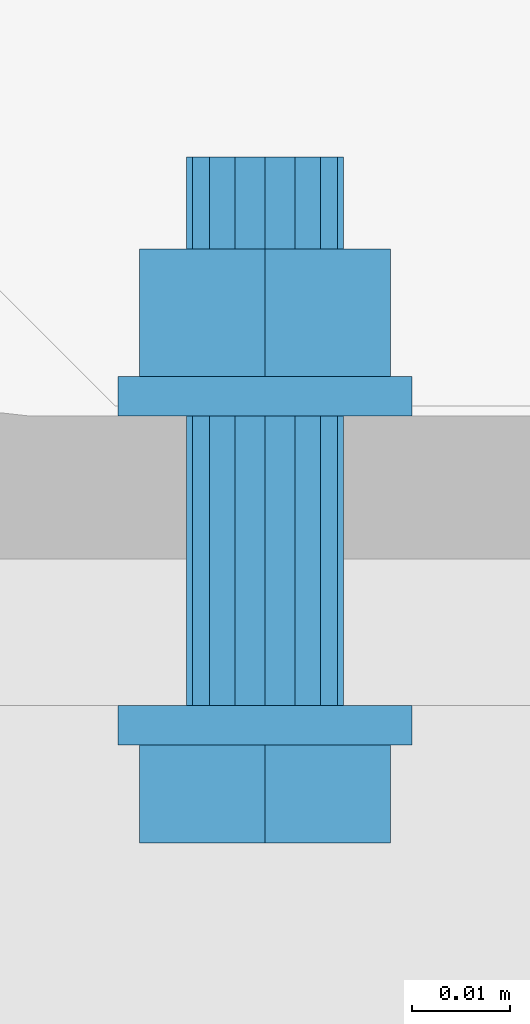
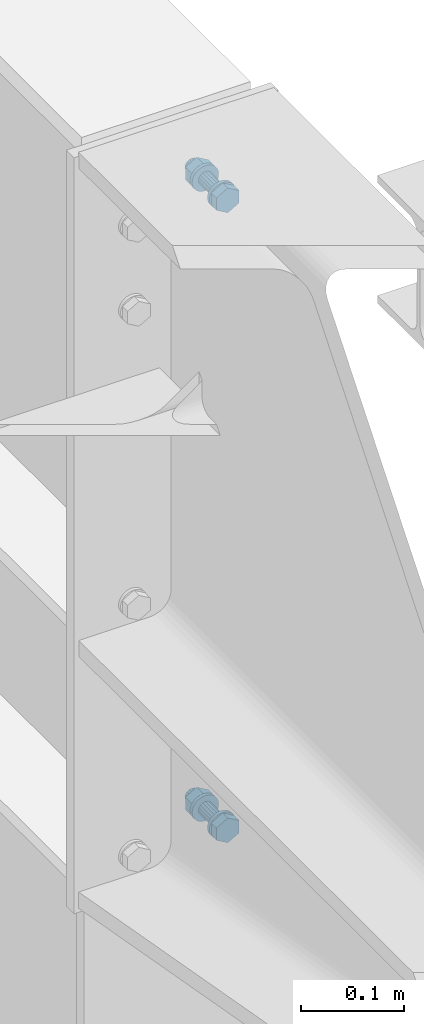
# Not in any storey, part 33 of 50: 2 mechanical fasteners.
"""IFC4 model written with IfcOpenShell, lengths in metres."""

import ifcopenshell
import ifcopenshell.guid

model = None  # the IFC model being written
_history = None  # IfcOwnerHistory: only IFC2X3 demands one
_inside = {}  # id of a spatial element -> (the spatial element, [elements in it])
_under = {}  # id of a project, library or spatial element -> (it, [spatial elements below it])
_declared = {}  # id of a project -> (the project, [libraries it declares])
_typed = {}  # id of a type object -> (the type object, [elements of that type])
_made_of = {}  # id of a material, layer set ... -> (it, [elements and type objects made of it])


def new_model(schema):
    """Start an empty IFC model of exactly this schema.

    Asked for "IFC4X3", IfcOpenShell would pick the latest addendum, in which some entities
    have other attributes; the version numbers below select the first issue.
    IFC2X3 requires an IfcOwnerHistory on every rooted entity: one is made here for all.
    """
    global model, _history
    if schema == "IFC4X3":
        model = ifcopenshell.file(schema_version=(4, 3, 0, 0))
    else:
        model = ifcopenshell.file(schema=schema)
    _inside.clear()
    _under.clear()
    _declared.clear()
    _typed.clear()
    _made_of.clear()
    _history = None
    if model.schema == "IFC2X3":
        org = make("IfcOrganization", Name="unknown")
        user = make(
            "IfcPersonAndOrganization",
            ThePerson=make("IfcPerson", FamilyName="unknown"),
            TheOrganization=org,
        )
        app = make(
            "IfcApplication",
            ApplicationDeveloper=org,
            Version="unknown",
            ApplicationFullName="unknown",
            ApplicationIdentifier="unknown",
        )
        _history = make(
            "IfcOwnerHistory",
            OwningUser=user,
            OwningApplication=app,
            ChangeAction="ADDED",
            CreationDate=0,
        )
    return model


def make(cls, **values):
    """One entity of the class cls with the attributes given. An attribute that is None is left unset."""
    return model.create_entity(
        cls, **{name: value for name, value in values.items() if value is not None}
    )


def entity(cls, *values):
    """Any entity or typed value of the class cls, its attributes in the order of the schema. None: left unset."""
    e = model.create_entity(cls)
    for i, value in enumerate(values):
        if value is not None:
            e[i] = value
    return e


def rooted(cls, **values):
    """An entity with a GlobalId (a new one), such as an element, a storey or a relation."""
    return make(cls, GlobalId=ifcopenshell.guid.new(), OwnerHistory=_history, **values)


def si_unit(unit_type, name, prefix=None):
    """IfcSIUnit, for example si_unit("LENGTHUNIT", "METRE", prefix="MILLI")."""
    return make("IfcSIUnit", UnitType=unit_type, Prefix=prefix, Name=name)


def converted_unit(unit_type, name, factor, base, dimensions=None, offset=None):
    """IfcConversionBasedUnit, such as the inch: factor (a typed value) times the base unit."""
    return make(
        "IfcConversionBasedUnit"
        if offset is None
        else "IfcConversionBasedUnitWithOffset",
        ConversionOffset=offset,
        Dimensions=None
        if dimensions is None
        else entity("IfcDimensionalExponents", *dimensions),
        UnitType=unit_type,
        Name=name,
        ConversionFactor=make(
            "IfcMeasureWithUnit", ValueComponent=factor, UnitComponent=base
        ),
    )


def derived_unit(unit_type, elements):
    """IfcDerivedUnit: a product of units, each with its exponent."""
    return make(
        "IfcDerivedUnit",
        Elements=[
            make("IfcDerivedUnitElement", Unit=unit, Exponent=power)
            for unit, power in elements
        ],
        UnitType=unit_type,
    )


def assignment(units):
    """IfcUnitAssignment: the units of a project."""
    return None if units is None else make("IfcUnitAssignment", Units=units)


def point(xyz):
    """IfcCartesianPoint."""
    return None if xyz is None else make("IfcCartesianPoint", Coordinates=xyz)


def direction(xyz):
    """IfcDirection."""
    return None if xyz is None else make("IfcDirection", DirectionRatios=xyz)


def frame(location, z_axis=None, x_axis=None):
    """IfcAxis2Placement3D, a coordinate frame: its origin and axes. An axis left out is left unset."""
    return make(
        "IfcAxis2Placement3D",
        Location=point(location),
        Axis=direction(z_axis),
        RefDirection=direction(x_axis),
    )


def origin():
    """The frame at (0, 0, 0) with its axes left unset."""
    return frame((0.0, 0.0, 0.0))


def origin_with_axes():
    """The frame at (0, 0, 0) with the z axis (0, 0, 1) and the x axis (1, 0, 0) written out."""
    return frame((0.0, 0.0, 0.0), z_axis=(0.0, 0.0, 1.0), x_axis=(1.0, 0.0, 0.0))


def place(relative_to, where):
    """IfcLocalPlacement: puts the frame where relative to a parent placement (None: the world)."""
    return make(
        "IfcLocalPlacement", PlacementRelTo=relative_to, RelativePlacement=where
    )


def context(
    kind, dimensions, precision=None, world=None, true_north=None, identifier=None
):
    """IfcGeometricRepresentationContext, for example the 3D "Model" context."""
    return make(
        "IfcGeometricRepresentationContext",
        ContextIdentifier=identifier,
        ContextType=kind,
        CoordinateSpaceDimension=dimensions,
        Precision=precision,
        WorldCoordinateSystem=world,
        TrueNorth=true_north,
    )


def project(units=None, contexts=None):
    """IfcProject with its units and contexts."""
    return rooted(
        "IfcProject",
        Name="project",
        RepresentationContexts=contexts,
        UnitsInContext=assignment(units),
    )


def spatial(cls, under=None, at=None, **own):
    """A site, building, storey or space (cls), placed at a placement, below another one or the project."""
    s = rooted(cls, ObjectPlacement=at, **own)
    if under is not None:
        _under.setdefault(under.id(), (under, []))[1].append(s)
    return s


def faces_of(points, faces, orient=None, outer=None):
    """IfcFace entities. A face is a list of loops; a loop is a list of indices into points, from 0.

    orient and outer hold one flag for each loop. By default every Orientation is true, the
    first loop of a face is its IfcFaceOuterBound and the others are IfcFaceBound.
    """
    made = []
    for i, loops in enumerate(faces):
        bounds = []
        for j, loop in enumerate(loops):
            is_outer = j == 0 if outer is None else outer[i][j]
            bounds.append(
                make(
                    "IfcFaceOuterBound" if is_outer else "IfcFaceBound",
                    Bound=make("IfcPolyLoop", Polygon=[points[k] for k in loop]),
                    Orientation=True if orient is None else orient[i][j],
                )
            )
        made.append(make("IfcFace", Bounds=bounds))
    return made


def faceted_brep(points, faces, orient=None, outer=None, voids=None):
    """IfcFacetedBrep: a solid bounded by flat faces; with voids (closed shells), ...WithVoids."""
    shared = [point(p) for p in points]
    hull = make("IfcClosedShell", CfsFaces=faces_of(shared, faces, orient, outer))
    if voids is None:
        return make("IfcFacetedBrep", Outer=hull)
    return make(
        "IfcFacetedBrepWithVoids",
        Outer=hull,
        Voids=[
            make(cls, CfsFaces=faces_of(shared, fs, o, b)) for cls, fs, o, b in voids
        ],
    )


def shape(context_of_items, identifier, shape_type, items):
    """IfcShapeRepresentation: the items that make up one representation, for example the "Body"."""
    return make(
        "IfcShapeRepresentation",
        ContextOfItems=context_of_items,
        RepresentationIdentifier=identifier,
        RepresentationType=shape_type,
        Items=items,
    )


def made_of(thing, what):
    """Note that an element or type object is made of a material, layer set ...; save() writes the relation."""
    if what is not None:
        _made_of.setdefault(what.id(), (what, []))[1].append(thing)
    return thing


def element(
    cls,
    number,
    at=None,
    inside=None,
    cuts=None,
    type_object=None,
    material=None,
    context=None,
    identifier="Body",
    shape_type=None,
    held_by="IfcProductDefinitionShape",
    body=None,
    shapes=None,
    **own,
):
    """One element of the class cls, such as IfcWall. Its Tag is "e" and its number.

    at: its placement. inside: the storey or other place that contains it. cuts: it is an
    opening in that element (IfcRelVoidsElement). A single representation is given by context,
    identifier, shape_type and body (its items); several are given by shapes. held_by: the class
    of the entity that holds the representations. save() writes the other relations.
    """
    e = rooted(cls, Tag="e%d" % number, ObjectPlacement=at, **own)
    if body is not None:
        shapes = [shape(context, identifier, shape_type, body)]
    if shapes is not None:
        e.Representation = make(held_by, Representations=shapes)
    if inside is not None:
        _inside.setdefault(inside.id(), (inside, []))[1].append(e)
    if cuts is not None:
        rooted(
            "IfcRelVoidsElement", RelatingBuildingElement=cuts, RelatedOpeningElement=e
        )
    if type_object is not None:
        _typed.setdefault(type_object.id(), (type_object, []))[1].append(e)
    return made_of(e, material)


def aggregate(whole, parts):
    """IfcRelAggregates: a whole, such as a stair, and the parts it consists of."""
    return rooted("IfcRelAggregates", RelatingObject=whole, RelatedObjects=parts)


def save(model, path):
    """Write the relations noted so far, then the file.

    IfcRelAggregates (storeys below a building ...), IfcRelContainedInSpatialStructure (elements
    in a storey), IfcRelDefinesByType, IfcRelAssociatesMaterial and IfcRelDeclares: one each for
    every whole, place, type object, material and project.
    """
    for whole, parts in _under.values():
        aggregate(whole, parts)
    for where, things in _inside.values():
        rooted(
            "IfcRelContainedInSpatialStructure",
            RelatedElements=things,
            RelatingStructure=where,
        )
    for kind, things in _typed.values():
        rooted("IfcRelDefinesByType", RelatedObjects=things, RelatingType=kind)
    for what, things in _made_of.values():
        rooted("IfcRelAssociatesMaterial", RelatedObjects=things, RelatingMaterial=what)
    for by, libraries in _declared.values():
        rooted("IfcRelDeclares", RelatingContext=by, RelatedDefinitions=libraries)
    model.write(path)


model = new_model("IFC4")

# Units and contexts
model_context = context("Model", 3, precision=1e-05, world=origin(), true_north=direction((6.123233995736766e-17, 1.0)))
ifc_project = project(units=[si_unit("LENGTHUNIT", "METRE"), si_unit("AREAUNIT", "SQUARE_METRE"), converted_unit("PLANEANGLEUNIT", "DEGREE", entity("IfcPlaneAngleMeasure", 0.017453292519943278), si_unit("PLANEANGLEUNIT", "RADIAN"), dimensions=[0, 0, 0, 0, 0, 0, 0]), si_unit("VOLUMEUNIT", "CUBIC_METRE"), derived_unit("THERMALTRANSMITTANCEUNIT", [(si_unit("MASSUNIT", "GRAM", prefix="KILO"), 1), (si_unit("THERMODYNAMICTEMPERATUREUNIT", "KELVIN"), -1), (si_unit("TIMEUNIT", "SECOND"), -3)])], contexts=[model_context])

# Site
site_placement = place(None, origin())
site = spatial("IfcSite", under=ifc_project, at=site_placement, Name="Default", CompositionType="ELEMENT")

# Mechanical fasteners
mechanical_fastener_1_placement = place(site_placement, origin_with_axes())
element("IfcMechanicalFastener", 1, at=mechanical_fastener_1_placement, inside=site, ObjectType="Bolt#1", NominalDiameter=0.016, NominalLength=0.06, context=model_context, shape_type="Brep", body=[
    faceted_brep([(8.225144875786, 17.685767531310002, 5.895), (8.225144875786, 17.68976753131, 5.895), (8.22543309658, 17.68976753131, 5.89207364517), (8.22543309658, 17.685767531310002, 5.89207364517), (8.226286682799, 17.68976753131, 5.889259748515), (8.226286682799, 17.685767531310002, 5.889259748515), (8.227672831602, 17.68976753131, 5.886666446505), (8.227672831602, 17.685767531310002, 5.886666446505), (8.229538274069, 17.68976753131, 5.884393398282), (8.229538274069, 17.685767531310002, 5.884393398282), (8.231811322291, 17.68976753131, 5.882527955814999), (8.231811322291, 17.685767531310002, 5.882527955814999), (8.234404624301, 17.68976753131, 5.881141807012), (8.234404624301, 17.685767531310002, 5.881141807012), (8.237218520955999, 17.68976753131, 5.880288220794), (8.237218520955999, 17.685767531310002, 5.880288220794), (8.240144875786, 17.68976753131, 5.88), (8.240144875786, 17.685767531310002, 5.88), (8.243071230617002, 17.68976753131, 5.880288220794), (8.243071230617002, 17.685767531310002, 5.880288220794), (8.245885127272, 17.68976753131, 5.881141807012), (8.245885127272, 17.685767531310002, 5.881141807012), (8.248478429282, 17.68976753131, 5.882527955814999), (8.248478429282, 17.685767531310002, 5.882527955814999), (8.250751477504, 17.68976753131, 5.884393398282), (8.250751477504, 17.685767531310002, 5.884393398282), (8.252616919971, 17.68976753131, 5.886666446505), (8.252616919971, 17.685767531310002, 5.886666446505), (8.254003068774, 17.68976753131, 5.889259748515), (8.254003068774, 17.685767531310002, 5.889259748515), (8.254856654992, 17.68976753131, 5.89207364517), (8.254856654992, 17.685767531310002, 5.89207364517), (8.255144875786, 17.68976753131, 5.895), (8.255144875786, 17.685767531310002, 5.895), (8.254856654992, 17.68976753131, 5.897926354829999), (8.254856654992, 17.685767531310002, 5.897926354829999), (8.254003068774, 17.68976753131, 5.900740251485), (8.254003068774, 17.685767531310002, 5.900740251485), (8.252616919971, 17.68976753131, 5.903333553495), (8.252616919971, 17.685767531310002, 5.903333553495), (8.250751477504, 17.68976753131, 5.9056066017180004), (8.250751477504, 17.685767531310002, 5.9056066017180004), (8.248478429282, 17.68976753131, 5.907472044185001), (8.248478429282, 17.685767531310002, 5.907472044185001), (8.245885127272, 17.68976753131, 5.908858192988), (8.245885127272, 17.685767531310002, 5.908858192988), (8.243071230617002, 17.68976753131, 5.909711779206), (8.243071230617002, 17.685767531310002, 5.909711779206), (8.240144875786, 17.68976753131, 5.91), (8.240144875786, 17.685767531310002, 5.91), (8.237218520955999, 17.68976753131, 5.909711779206), (8.237218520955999, 17.685767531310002, 5.909711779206), (8.234404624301, 17.68976753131, 5.908858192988), (8.234404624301, 17.685767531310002, 5.908858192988), (8.231811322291, 17.68976753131, 5.907472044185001), (8.231811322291, 17.685767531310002, 5.907472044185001), (8.229538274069, 17.68976753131, 5.9056066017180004), (8.229538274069, 17.685767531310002, 5.9056066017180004), (8.227672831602, 17.68976753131, 5.903333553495), (8.227672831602, 17.685767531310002, 5.903333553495), (8.226286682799, 17.68976753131, 5.900740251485), (8.226286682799, 17.685767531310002, 5.900740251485), (8.22543309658, 17.68976753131, 5.897926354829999), (8.22543309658, 17.685767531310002, 5.897926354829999)], [[[0, 1, 2, 3]], [[3, 2, 4, 5]], [[5, 4, 6, 7]], [[7, 6, 8, 9]], [[9, 8, 10, 11]], [[11, 10, 12, 13]], [[13, 12, 14, 15]], [[15, 14, 16, 17]], [[17, 16, 18, 19]], [[19, 18, 20, 21]], [[21, 20, 22, 23]], [[23, 22, 24, 25]], [[25, 24, 26, 27]], [[27, 26, 28, 29]], [[29, 28, 30, 31]], [[31, 30, 32, 33]], [[33, 32, 34, 35]], [[35, 34, 36, 37]], [[37, 36, 38, 39]], [[39, 38, 40, 41]], [[41, 40, 42, 43]], [[43, 42, 44, 45]], [[45, 44, 46, 47]], [[47, 46, 48, 49]], [[49, 48, 50, 51]], [[51, 50, 52, 53]], [[53, 52, 54, 55]], [[55, 54, 56, 57]], [[57, 56, 58, 59]], [[59, 58, 60, 61]], [[61, 60, 62, 63]], [[63, 62, 1, 0]], [[0, 3, 5, 7, 9, 11, 13, 15, 17, 19, 21, 23, 25, 27, 29, 31, 33, 35, 37, 39, 41, 43, 45, 47, 49, 51, 53, 55, 57, 59, 61, 63]], [[1, 62, 60, 58, 56, 54, 52, 50, 48, 46, 44, 42, 40, 38, 36, 34, 32, 30, 28, 26, 24, 22, 20, 18, 16, 14, 12, 10, 8, 6, 4, 2]]]),
    faceted_brep([(8.252944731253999, 17.685767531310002, 5.88761), (8.252944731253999, 17.67576753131, 5.88761), (8.240144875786, 17.67576753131, 5.8802200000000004), (8.240144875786, 17.685767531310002, 5.8802200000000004), (8.227345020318, 17.67576753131, 5.88761), (8.227345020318, 17.685767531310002, 5.88761), (8.227345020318, 17.67576753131, 5.9023900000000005), (8.227345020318, 17.685767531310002, 5.9023900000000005), (8.240144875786, 17.67576753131, 5.90978), (8.240144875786, 17.685767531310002, 5.90978), (8.252944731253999, 17.67576753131, 5.9023900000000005), (8.252944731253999, 17.685767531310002, 5.9023900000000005)], [[[0, 1, 2, 3]], [[3, 2, 4, 5]], [[5, 4, 6, 7]], [[7, 6, 8, 9]], [[9, 8, 10, 11]], [[11, 10, 1, 0]], [[4, 2, 1, 10, 8, 6]], [[0, 3, 5, 7, 9, 11]]]),
    faceted_brep([(8.232144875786, 17.68976753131, 5.895), (8.232144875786, 17.71936753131, 5.895), (8.232753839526, 17.71936753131, 5.891938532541), (8.232753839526, 17.68976753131, 5.891938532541), (8.234488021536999, 17.71936753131, 5.889343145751), (8.234488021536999, 17.68976753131, 5.889343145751), (8.237083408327, 17.71936753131, 5.88760896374), (8.237083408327, 17.68976753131, 5.88760896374), (8.240144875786, 17.71936753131, 5.887), (8.240144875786, 17.68976753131, 5.887), (8.243206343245, 17.71936753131, 5.88760896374), (8.243206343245, 17.68976753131, 5.88760896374), (8.245801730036, 17.71936753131, 5.889343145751), (8.245801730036, 17.68976753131, 5.889343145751), (8.247535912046, 17.71936753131, 5.891938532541), (8.247535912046, 17.68976753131, 5.891938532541), (8.248144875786, 17.71936753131, 5.895), (8.248144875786, 17.68976753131, 5.895), (8.247535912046, 17.71936753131, 5.898061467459), (8.247535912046, 17.68976753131, 5.898061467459), (8.245801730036, 17.71936753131, 5.900656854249), (8.245801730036, 17.68976753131, 5.900656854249), (8.243206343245, 17.71936753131, 5.90239103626), (8.243206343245, 17.68976753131, 5.90239103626), (8.240144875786, 17.71936753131, 5.903), (8.240144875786, 17.68976753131, 5.903), (8.237083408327, 17.71936753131, 5.90239103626), (8.237083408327, 17.68976753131, 5.90239103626), (8.234488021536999, 17.71936753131, 5.900656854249), (8.234488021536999, 17.68976753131, 5.900656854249), (8.232753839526, 17.71936753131, 5.898061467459), (8.232753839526, 17.68976753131, 5.898061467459)], [[[0, 1, 2, 3]], [[3, 2, 4, 5]], [[5, 4, 6, 7]], [[7, 6, 8, 9]], [[9, 8, 10, 11]], [[11, 10, 12, 13]], [[13, 12, 14, 15]], [[15, 14, 16, 17]], [[17, 16, 18, 19]], [[19, 18, 20, 21]], [[21, 20, 22, 23]], [[23, 22, 24, 25]], [[25, 24, 26, 27]], [[27, 26, 28, 29]], [[29, 28, 30, 31]], [[31, 30, 1, 0]], [[0, 3, 5, 7, 9, 11, 13, 15, 17, 19, 21, 23, 25, 27, 29, 31]], [[1, 30, 28, 26, 24, 22, 20, 18, 16, 14, 12, 10, 8, 6, 4, 2]]]),
    faceted_brep([(8.225144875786, 17.71936753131, 5.895), (8.225144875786, 17.72336753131, 5.895), (8.22543309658, 17.72336753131, 5.89207364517), (8.22543309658, 17.71936753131, 5.89207364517), (8.226286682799, 17.72336753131, 5.889259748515), (8.226286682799, 17.71936753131, 5.889259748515), (8.227672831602, 17.72336753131, 5.886666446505), (8.227672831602, 17.71936753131, 5.886666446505), (8.229538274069, 17.72336753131, 5.884393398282), (8.229538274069, 17.71936753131, 5.884393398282), (8.231811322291, 17.72336753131, 5.882527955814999), (8.231811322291, 17.71936753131, 5.882527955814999), (8.234404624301, 17.72336753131, 5.881141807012), (8.234404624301, 17.71936753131, 5.881141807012), (8.237218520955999, 17.72336753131, 5.880288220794), (8.237218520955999, 17.71936753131, 5.880288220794), (8.240144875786, 17.72336753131, 5.88), (8.240144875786, 17.71936753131, 5.88), (8.243071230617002, 17.72336753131, 5.880288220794), (8.243071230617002, 17.71936753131, 5.880288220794), (8.245885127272, 17.72336753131, 5.881141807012), (8.245885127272, 17.71936753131, 5.881141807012), (8.248478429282, 17.72336753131, 5.882527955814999), (8.248478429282, 17.71936753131, 5.882527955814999), (8.250751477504, 17.72336753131, 5.884393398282), (8.250751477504, 17.71936753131, 5.884393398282), (8.252616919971, 17.72336753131, 5.886666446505), (8.252616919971, 17.71936753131, 5.886666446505), (8.254003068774, 17.72336753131, 5.889259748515), (8.254003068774, 17.71936753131, 5.889259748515), (8.254856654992, 17.72336753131, 5.89207364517), (8.254856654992, 17.71936753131, 5.89207364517), (8.255144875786, 17.72336753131, 5.895), (8.255144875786, 17.71936753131, 5.895), (8.254856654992, 17.72336753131, 5.897926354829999), (8.254856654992, 17.71936753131, 5.897926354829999), (8.254003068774, 17.72336753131, 5.900740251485), (8.254003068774, 17.71936753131, 5.900740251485), (8.252616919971, 17.72336753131, 5.903333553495), (8.252616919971, 17.71936753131, 5.903333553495), (8.250751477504, 17.72336753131, 5.9056066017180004), (8.250751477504, 17.71936753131, 5.9056066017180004), (8.248478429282, 17.72336753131, 5.907472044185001), (8.248478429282, 17.71936753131, 5.907472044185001), (8.245885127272, 17.72336753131, 5.908858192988), (8.245885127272, 17.71936753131, 5.908858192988), (8.243071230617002, 17.72336753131, 5.909711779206), (8.243071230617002, 17.71936753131, 5.909711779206), (8.240144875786, 17.72336753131, 5.91), (8.240144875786, 17.71936753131, 5.91), (8.237218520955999, 17.72336753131, 5.909711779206), (8.237218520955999, 17.71936753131, 5.909711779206), (8.234404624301, 17.72336753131, 5.908858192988), (8.234404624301, 17.71936753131, 5.908858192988), (8.231811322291, 17.72336753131, 5.907472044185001), (8.231811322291, 17.71936753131, 5.907472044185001), (8.229538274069, 17.72336753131, 5.9056066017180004), (8.229538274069, 17.71936753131, 5.9056066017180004), (8.227672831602, 17.72336753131, 5.903333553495), (8.227672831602, 17.71936753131, 5.903333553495), (8.226286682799, 17.72336753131, 5.900740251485), (8.226286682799, 17.71936753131, 5.900740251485), (8.22543309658, 17.72336753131, 5.897926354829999), (8.22543309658, 17.71936753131, 5.897926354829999)], [[[0, 1, 2, 3]], [[3, 2, 4, 5]], [[5, 4, 6, 7]], [[7, 6, 8, 9]], [[9, 8, 10, 11]], [[11, 10, 12, 13]], [[13, 12, 14, 15]], [[15, 14, 16, 17]], [[17, 16, 18, 19]], [[19, 18, 20, 21]], [[21, 20, 22, 23]], [[23, 22, 24, 25]], [[25, 24, 26, 27]], [[27, 26, 28, 29]], [[29, 28, 30, 31]], [[31, 30, 32, 33]], [[33, 32, 34, 35]], [[35, 34, 36, 37]], [[37, 36, 38, 39]], [[39, 38, 40, 41]], [[41, 40, 42, 43]], [[43, 42, 44, 45]], [[45, 44, 46, 47]], [[47, 46, 48, 49]], [[49, 48, 50, 51]], [[51, 50, 52, 53]], [[53, 52, 54, 55]], [[55, 54, 56, 57]], [[57, 56, 58, 59]], [[59, 58, 60, 61]], [[61, 60, 62, 63]], [[63, 62, 1, 0]], [[0, 3, 5, 7, 9, 11, 13, 15, 17, 19, 21, 23, 25, 27, 29, 31, 33, 35, 37, 39, 41, 43, 45, 47, 49, 51, 53, 55, 57, 59, 61, 63]], [[1, 62, 60, 58, 56, 54, 52, 50, 48, 46, 44, 42, 40, 38, 36, 34, 32, 30, 28, 26, 24, 22, 20, 18, 16, 14, 12, 10, 8, 6, 4, 2]]]),
    faceted_brep([(8.252944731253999, 17.736367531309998, 5.88761), (8.252944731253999, 17.72336753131, 5.88761), (8.240144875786, 17.72336753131, 5.8802200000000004), (8.240144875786, 17.736367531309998, 5.8802200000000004), (8.227345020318, 17.72336753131, 5.88761), (8.227345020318, 17.736367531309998, 5.88761), (8.227345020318, 17.72336753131, 5.9023900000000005), (8.227345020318, 17.736367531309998, 5.9023900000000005), (8.240144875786, 17.72336753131, 5.90978), (8.240144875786, 17.736367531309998, 5.90978), (8.252944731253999, 17.72336753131, 5.9023900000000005), (8.252944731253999, 17.736367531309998, 5.9023900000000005)], [[[0, 1, 2, 3]], [[3, 2, 4, 5]], [[5, 4, 6, 7]], [[7, 6, 8, 9]], [[9, 8, 10, 11]], [[11, 10, 1, 0]], [[4, 2, 1, 10, 8, 6]], [[0, 3, 5, 7, 9, 11]]]),
    faceted_brep([(8.232144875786, 17.736367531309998, 5.895), (8.232144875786, 17.74576753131, 5.895), (8.232753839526, 17.74576753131, 5.891938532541), (8.232753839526, 17.736367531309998, 5.891938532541), (8.234488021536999, 17.74576753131, 5.889343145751), (8.234488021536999, 17.736367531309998, 5.889343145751), (8.237083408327, 17.74576753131, 5.88760896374), (8.237083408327, 17.736367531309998, 5.88760896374), (8.240144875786, 17.74576753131, 5.887), (8.240144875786, 17.736367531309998, 5.887), (8.243206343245, 17.74576753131, 5.88760896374), (8.243206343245, 17.736367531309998, 5.88760896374), (8.245801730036, 17.74576753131, 5.889343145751), (8.245801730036, 17.736367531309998, 5.889343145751), (8.247535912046, 17.74576753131, 5.891938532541), (8.247535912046, 17.736367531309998, 5.891938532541), (8.248144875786, 17.74576753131, 5.895), (8.248144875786, 17.736367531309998, 5.895), (8.247535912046, 17.74576753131, 5.898061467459), (8.247535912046, 17.736367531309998, 5.898061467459), (8.245801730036, 17.74576753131, 5.900656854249), (8.245801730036, 17.736367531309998, 5.900656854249), (8.243206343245, 17.74576753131, 5.90239103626), (8.243206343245, 17.736367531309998, 5.90239103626), (8.240144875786, 17.74576753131, 5.903), (8.240144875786, 17.736367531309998, 5.903), (8.237083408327, 17.74576753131, 5.90239103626), (8.237083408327, 17.736367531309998, 5.90239103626), (8.234488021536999, 17.74576753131, 5.900656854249), (8.234488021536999, 17.736367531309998, 5.900656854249), (8.232753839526, 17.74576753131, 5.898061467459), (8.232753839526, 17.736367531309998, 5.898061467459)], [[[0, 1, 2, 3]], [[3, 2, 4, 5]], [[5, 4, 6, 7]], [[7, 6, 8, 9]], [[9, 8, 10, 11]], [[11, 10, 12, 13]], [[13, 12, 14, 15]], [[15, 14, 16, 17]], [[17, 16, 18, 19]], [[19, 18, 20, 21]], [[21, 20, 22, 23]], [[23, 22, 24, 25]], [[25, 24, 26, 27]], [[27, 26, 28, 29]], [[29, 28, 30, 31]], [[31, 30, 1, 0]], [[0, 3, 5, 7, 9, 11, 13, 15, 17, 19, 21, 23, 25, 27, 29, 31]], [[1, 30, 28, 26, 24, 22, 20, 18, 16, 14, 12, 10, 8, 6, 4, 2]]]),
])
mechanical_fastener_2_placement = place(site_placement, origin_with_axes())
element("IfcMechanicalFastener", 2, at=mechanical_fastener_2_placement, inside=site, ObjectType="Bolt#2", NominalDiameter=0.016, NominalLength=0.06, context=model_context, shape_type="Brep", body=[
    faceted_brep([(8.225144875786, 17.685767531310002, 5.145), (8.225144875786, 17.68976753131, 5.145), (8.22543309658, 17.68976753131, 5.14207364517), (8.22543309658, 17.685767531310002, 5.14207364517), (8.226286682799, 17.68976753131, 5.139259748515), (8.226286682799, 17.685767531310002, 5.139259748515), (8.227672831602, 17.68976753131, 5.136666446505), (8.227672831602, 17.685767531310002, 5.136666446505), (8.229538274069, 17.68976753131, 5.134393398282), (8.229538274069, 17.685767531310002, 5.134393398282), (8.231811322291, 17.68976753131, 5.132527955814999), (8.231811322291, 17.685767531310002, 5.132527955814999), (8.234404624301, 17.68976753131, 5.131141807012), (8.234404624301, 17.685767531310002, 5.131141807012), (8.237218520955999, 17.68976753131, 5.130288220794), (8.237218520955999, 17.685767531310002, 5.130288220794), (8.240144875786, 17.68976753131, 5.13), (8.240144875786, 17.685767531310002, 5.13), (8.243071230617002, 17.68976753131, 5.130288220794), (8.243071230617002, 17.685767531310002, 5.130288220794), (8.245885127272, 17.68976753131, 5.131141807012), (8.245885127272, 17.685767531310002, 5.131141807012), (8.248478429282, 17.68976753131, 5.132527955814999), (8.248478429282, 17.685767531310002, 5.132527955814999), (8.250751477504, 17.68976753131, 5.134393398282), (8.250751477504, 17.685767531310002, 5.134393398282), (8.252616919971, 17.68976753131, 5.136666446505), (8.252616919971, 17.685767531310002, 5.136666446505), (8.254003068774, 17.68976753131, 5.139259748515), (8.254003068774, 17.685767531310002, 5.139259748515), (8.254856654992, 17.68976753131, 5.14207364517), (8.254856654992, 17.685767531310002, 5.14207364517), (8.255144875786, 17.68976753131, 5.145), (8.255144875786, 17.685767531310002, 5.145), (8.254856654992, 17.68976753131, 5.147926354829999), (8.254856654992, 17.685767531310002, 5.147926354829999), (8.254003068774, 17.68976753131, 5.150740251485), (8.254003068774, 17.685767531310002, 5.150740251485), (8.252616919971, 17.68976753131, 5.153333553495), (8.252616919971, 17.685767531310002, 5.153333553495), (8.250751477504, 17.68976753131, 5.1556066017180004), (8.250751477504, 17.685767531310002, 5.1556066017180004), (8.248478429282, 17.68976753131, 5.157472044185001), (8.248478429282, 17.685767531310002, 5.157472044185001), (8.245885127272, 17.68976753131, 5.158858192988), (8.245885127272, 17.685767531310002, 5.158858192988), (8.243071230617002, 17.68976753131, 5.159711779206), (8.243071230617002, 17.685767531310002, 5.159711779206), (8.240144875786, 17.68976753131, 5.16), (8.240144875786, 17.685767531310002, 5.16), (8.237218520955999, 17.68976753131, 5.159711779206), (8.237218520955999, 17.685767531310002, 5.159711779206), (8.234404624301, 17.68976753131, 5.158858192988), (8.234404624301, 17.685767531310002, 5.158858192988), (8.231811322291, 17.68976753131, 5.157472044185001), (8.231811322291, 17.685767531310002, 5.157472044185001), (8.229538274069, 17.68976753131, 5.1556066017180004), (8.229538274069, 17.685767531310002, 5.1556066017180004), (8.227672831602, 17.68976753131, 5.153333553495), (8.227672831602, 17.685767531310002, 5.153333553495), (8.226286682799, 17.68976753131, 5.150740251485), (8.226286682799, 17.685767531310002, 5.150740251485), (8.22543309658, 17.68976753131, 5.147926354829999), (8.22543309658, 17.685767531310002, 5.147926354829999)], [[[0, 1, 2, 3]], [[3, 2, 4, 5]], [[5, 4, 6, 7]], [[7, 6, 8, 9]], [[9, 8, 10, 11]], [[11, 10, 12, 13]], [[13, 12, 14, 15]], [[15, 14, 16, 17]], [[17, 16, 18, 19]], [[19, 18, 20, 21]], [[21, 20, 22, 23]], [[23, 22, 24, 25]], [[25, 24, 26, 27]], [[27, 26, 28, 29]], [[29, 28, 30, 31]], [[31, 30, 32, 33]], [[33, 32, 34, 35]], [[35, 34, 36, 37]], [[37, 36, 38, 39]], [[39, 38, 40, 41]], [[41, 40, 42, 43]], [[43, 42, 44, 45]], [[45, 44, 46, 47]], [[47, 46, 48, 49]], [[49, 48, 50, 51]], [[51, 50, 52, 53]], [[53, 52, 54, 55]], [[55, 54, 56, 57]], [[57, 56, 58, 59]], [[59, 58, 60, 61]], [[61, 60, 62, 63]], [[63, 62, 1, 0]], [[0, 3, 5, 7, 9, 11, 13, 15, 17, 19, 21, 23, 25, 27, 29, 31, 33, 35, 37, 39, 41, 43, 45, 47, 49, 51, 53, 55, 57, 59, 61, 63]], [[1, 62, 60, 58, 56, 54, 52, 50, 48, 46, 44, 42, 40, 38, 36, 34, 32, 30, 28, 26, 24, 22, 20, 18, 16, 14, 12, 10, 8, 6, 4, 2]]]),
    faceted_brep([(8.252944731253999, 17.685767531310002, 5.13761), (8.252944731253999, 17.67576753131, 5.13761), (8.240144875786, 17.67576753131, 5.1302200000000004), (8.240144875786, 17.685767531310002, 5.1302200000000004), (8.227345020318, 17.67576753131, 5.13761), (8.227345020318, 17.685767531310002, 5.13761), (8.227345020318, 17.67576753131, 5.1523900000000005), (8.227345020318, 17.685767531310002, 5.1523900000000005), (8.240144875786, 17.67576753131, 5.15978), (8.240144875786, 17.685767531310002, 5.15978), (8.252944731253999, 17.67576753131, 5.1523900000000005), (8.252944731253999, 17.685767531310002, 5.1523900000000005)], [[[0, 1, 2, 3]], [[3, 2, 4, 5]], [[5, 4, 6, 7]], [[7, 6, 8, 9]], [[9, 8, 10, 11]], [[11, 10, 1, 0]], [[4, 2, 1, 10, 8, 6]], [[0, 3, 5, 7, 9, 11]]]),
    faceted_brep([(8.232144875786, 17.68976753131, 5.145), (8.232144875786, 17.71936753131, 5.145), (8.232753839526, 17.71936753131, 5.141938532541), (8.232753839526, 17.68976753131, 5.141938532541), (8.234488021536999, 17.71936753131, 5.139343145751), (8.234488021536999, 17.68976753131, 5.139343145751), (8.237083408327, 17.71936753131, 5.13760896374), (8.237083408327, 17.68976753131, 5.13760896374), (8.240144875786, 17.71936753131, 5.137), (8.240144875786, 17.68976753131, 5.137), (8.243206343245, 17.71936753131, 5.13760896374), (8.243206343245, 17.68976753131, 5.13760896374), (8.245801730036, 17.71936753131, 5.139343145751), (8.245801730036, 17.68976753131, 5.139343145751), (8.247535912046, 17.71936753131, 5.141938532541), (8.247535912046, 17.68976753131, 5.141938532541), (8.248144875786, 17.71936753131, 5.145), (8.248144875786, 17.68976753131, 5.145), (8.247535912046, 17.71936753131, 5.148061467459), (8.247535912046, 17.68976753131, 5.148061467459), (8.245801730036, 17.71936753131, 5.150656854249), (8.245801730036, 17.68976753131, 5.150656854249), (8.243206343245, 17.71936753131, 5.15239103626), (8.243206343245, 17.68976753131, 5.15239103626), (8.240144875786, 17.71936753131, 5.153), (8.240144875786, 17.68976753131, 5.153), (8.237083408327, 17.71936753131, 5.15239103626), (8.237083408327, 17.68976753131, 5.15239103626), (8.234488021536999, 17.71936753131, 5.150656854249), (8.234488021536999, 17.68976753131, 5.150656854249), (8.232753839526, 17.71936753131, 5.148061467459), (8.232753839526, 17.68976753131, 5.148061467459)], [[[0, 1, 2, 3]], [[3, 2, 4, 5]], [[5, 4, 6, 7]], [[7, 6, 8, 9]], [[9, 8, 10, 11]], [[11, 10, 12, 13]], [[13, 12, 14, 15]], [[15, 14, 16, 17]], [[17, 16, 18, 19]], [[19, 18, 20, 21]], [[21, 20, 22, 23]], [[23, 22, 24, 25]], [[25, 24, 26, 27]], [[27, 26, 28, 29]], [[29, 28, 30, 31]], [[31, 30, 1, 0]], [[0, 3, 5, 7, 9, 11, 13, 15, 17, 19, 21, 23, 25, 27, 29, 31]], [[1, 30, 28, 26, 24, 22, 20, 18, 16, 14, 12, 10, 8, 6, 4, 2]]]),
    faceted_brep([(8.225144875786, 17.71936753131, 5.145), (8.225144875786, 17.72336753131, 5.145), (8.22543309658, 17.72336753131, 5.14207364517), (8.22543309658, 17.71936753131, 5.14207364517), (8.226286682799, 17.72336753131, 5.139259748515), (8.226286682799, 17.71936753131, 5.139259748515), (8.227672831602, 17.72336753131, 5.136666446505), (8.227672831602, 17.71936753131, 5.136666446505), (8.229538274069, 17.72336753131, 5.134393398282), (8.229538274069, 17.71936753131, 5.134393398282), (8.231811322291, 17.72336753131, 5.132527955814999), (8.231811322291, 17.71936753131, 5.132527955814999), (8.234404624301, 17.72336753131, 5.131141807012), (8.234404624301, 17.71936753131, 5.131141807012), (8.237218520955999, 17.72336753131, 5.130288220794), (8.237218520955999, 17.71936753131, 5.130288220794), (8.240144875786, 17.72336753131, 5.13), (8.240144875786, 17.71936753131, 5.13), (8.243071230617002, 17.72336753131, 5.130288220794), (8.243071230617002, 17.71936753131, 5.130288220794), (8.245885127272, 17.72336753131, 5.131141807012), (8.245885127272, 17.71936753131, 5.131141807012), (8.248478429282, 17.72336753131, 5.132527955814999), (8.248478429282, 17.71936753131, 5.132527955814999), (8.250751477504, 17.72336753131, 5.134393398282), (8.250751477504, 17.71936753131, 5.134393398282), (8.252616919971, 17.72336753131, 5.136666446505), (8.252616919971, 17.71936753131, 5.136666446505), (8.254003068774, 17.72336753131, 5.139259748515), (8.254003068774, 17.71936753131, 5.139259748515), (8.254856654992, 17.72336753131, 5.14207364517), (8.254856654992, 17.71936753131, 5.14207364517), (8.255144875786, 17.72336753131, 5.145), (8.255144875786, 17.71936753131, 5.145), (8.254856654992, 17.72336753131, 5.147926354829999), (8.254856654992, 17.71936753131, 5.147926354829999), (8.254003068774, 17.72336753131, 5.150740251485), (8.254003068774, 17.71936753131, 5.150740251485), (8.252616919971, 17.72336753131, 5.153333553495), (8.252616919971, 17.71936753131, 5.153333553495), (8.250751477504, 17.72336753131, 5.1556066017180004), (8.250751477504, 17.71936753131, 5.1556066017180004), (8.248478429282, 17.72336753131, 5.157472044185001), (8.248478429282, 17.71936753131, 5.157472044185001), (8.245885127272, 17.72336753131, 5.158858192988), (8.245885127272, 17.71936753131, 5.158858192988), (8.243071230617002, 17.72336753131, 5.159711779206), (8.243071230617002, 17.71936753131, 5.159711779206), (8.240144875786, 17.72336753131, 5.16), (8.240144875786, 17.71936753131, 5.16), (8.237218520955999, 17.72336753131, 5.159711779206), (8.237218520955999, 17.71936753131, 5.159711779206), (8.234404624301, 17.72336753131, 5.158858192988), (8.234404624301, 17.71936753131, 5.158858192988), (8.231811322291, 17.72336753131, 5.157472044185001), (8.231811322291, 17.71936753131, 5.157472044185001), (8.229538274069, 17.72336753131, 5.1556066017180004), (8.229538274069, 17.71936753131, 5.1556066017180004), (8.227672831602, 17.72336753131, 5.153333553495), (8.227672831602, 17.71936753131, 5.153333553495), (8.226286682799, 17.72336753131, 5.150740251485), (8.226286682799, 17.71936753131, 5.150740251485), (8.22543309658, 17.72336753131, 5.147926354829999), (8.22543309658, 17.71936753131, 5.147926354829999)], [[[0, 1, 2, 3]], [[3, 2, 4, 5]], [[5, 4, 6, 7]], [[7, 6, 8, 9]], [[9, 8, 10, 11]], [[11, 10, 12, 13]], [[13, 12, 14, 15]], [[15, 14, 16, 17]], [[17, 16, 18, 19]], [[19, 18, 20, 21]], [[21, 20, 22, 23]], [[23, 22, 24, 25]], [[25, 24, 26, 27]], [[27, 26, 28, 29]], [[29, 28, 30, 31]], [[31, 30, 32, 33]], [[33, 32, 34, 35]], [[35, 34, 36, 37]], [[37, 36, 38, 39]], [[39, 38, 40, 41]], [[41, 40, 42, 43]], [[43, 42, 44, 45]], [[45, 44, 46, 47]], [[47, 46, 48, 49]], [[49, 48, 50, 51]], [[51, 50, 52, 53]], [[53, 52, 54, 55]], [[55, 54, 56, 57]], [[57, 56, 58, 59]], [[59, 58, 60, 61]], [[61, 60, 62, 63]], [[63, 62, 1, 0]], [[0, 3, 5, 7, 9, 11, 13, 15, 17, 19, 21, 23, 25, 27, 29, 31, 33, 35, 37, 39, 41, 43, 45, 47, 49, 51, 53, 55, 57, 59, 61, 63]], [[1, 62, 60, 58, 56, 54, 52, 50, 48, 46, 44, 42, 40, 38, 36, 34, 32, 30, 28, 26, 24, 22, 20, 18, 16, 14, 12, 10, 8, 6, 4, 2]]]),
    faceted_brep([(8.252944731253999, 17.736367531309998, 5.13761), (8.252944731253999, 17.72336753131, 5.13761), (8.240144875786, 17.72336753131, 5.1302200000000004), (8.240144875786, 17.736367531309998, 5.1302200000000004), (8.227345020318, 17.72336753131, 5.13761), (8.227345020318, 17.736367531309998, 5.13761), (8.227345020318, 17.72336753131, 5.1523900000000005), (8.227345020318, 17.736367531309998, 5.1523900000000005), (8.240144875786, 17.72336753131, 5.15978), (8.240144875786, 17.736367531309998, 5.15978), (8.252944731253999, 17.72336753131, 5.1523900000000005), (8.252944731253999, 17.736367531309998, 5.1523900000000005)], [[[0, 1, 2, 3]], [[3, 2, 4, 5]], [[5, 4, 6, 7]], [[7, 6, 8, 9]], [[9, 8, 10, 11]], [[11, 10, 1, 0]], [[4, 2, 1, 10, 8, 6]], [[0, 3, 5, 7, 9, 11]]]),
    faceted_brep([(8.232144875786, 17.736367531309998, 5.145), (8.232144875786, 17.74576753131, 5.145), (8.232753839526, 17.74576753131, 5.141938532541), (8.232753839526, 17.736367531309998, 5.141938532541), (8.234488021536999, 17.74576753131, 5.139343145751), (8.234488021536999, 17.736367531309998, 5.139343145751), (8.237083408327, 17.74576753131, 5.13760896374), (8.237083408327, 17.736367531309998, 5.13760896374), (8.240144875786, 17.74576753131, 5.137), (8.240144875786, 17.736367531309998, 5.137), (8.243206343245, 17.74576753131, 5.13760896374), (8.243206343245, 17.736367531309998, 5.13760896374), (8.245801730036, 17.74576753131, 5.139343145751), (8.245801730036, 17.736367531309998, 5.139343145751), (8.247535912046, 17.74576753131, 5.141938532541), (8.247535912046, 17.736367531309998, 5.141938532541), (8.248144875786, 17.74576753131, 5.145), (8.248144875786, 17.736367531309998, 5.145), (8.247535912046, 17.74576753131, 5.148061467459), (8.247535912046, 17.736367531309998, 5.148061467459), (8.245801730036, 17.74576753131, 5.150656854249), (8.245801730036, 17.736367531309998, 5.150656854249), (8.243206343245, 17.74576753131, 5.15239103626), (8.243206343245, 17.736367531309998, 5.15239103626), (8.240144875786, 17.74576753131, 5.153), (8.240144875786, 17.736367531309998, 5.153), (8.237083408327, 17.74576753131, 5.15239103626), (8.237083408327, 17.736367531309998, 5.15239103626), (8.234488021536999, 17.74576753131, 5.150656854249), (8.234488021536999, 17.736367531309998, 5.150656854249), (8.232753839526, 17.74576753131, 5.148061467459), (8.232753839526, 17.736367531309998, 5.148061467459)], [[[0, 1, 2, 3]], [[3, 2, 4, 5]], [[5, 4, 6, 7]], [[7, 6, 8, 9]], [[9, 8, 10, 11]], [[11, 10, 12, 13]], [[13, 12, 14, 15]], [[15, 14, 16, 17]], [[17, 16, 18, 19]], [[19, 18, 20, 21]], [[21, 20, 22, 23]], [[23, 22, 24, 25]], [[25, 24, 26, 27]], [[27, 26, 28, 29]], [[29, 28, 30, 31]], [[31, 30, 1, 0]], [[0, 3, 5, 7, 9, 11, 13, 15, 17, 19, 21, 23, 25, 27, 29, 31]], [[1, 30, 28, 26, 24, 22, 20, 18, 16, 14, 12, 10, 8, 6, 4, 2]]]),
])

save(model, "model.ifc")
